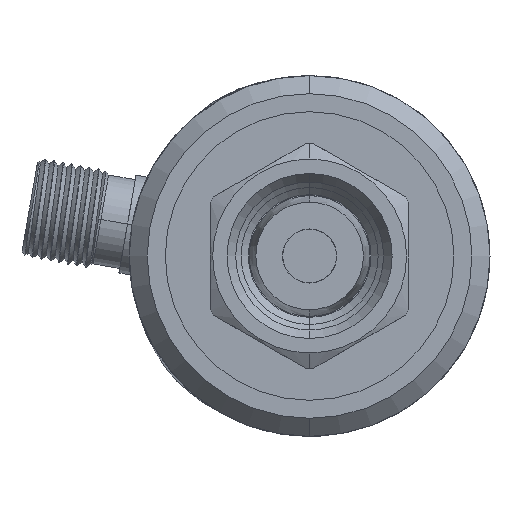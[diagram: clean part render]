
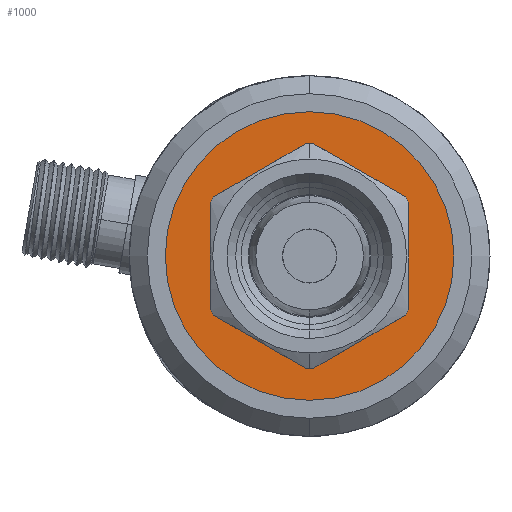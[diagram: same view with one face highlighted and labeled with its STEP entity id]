
A CAD part, front view. The second image highlights one B-rep face of the part: STEP entity #1000.
In plain terms, the highlighted planar face has unit normal (0, -1, 0).
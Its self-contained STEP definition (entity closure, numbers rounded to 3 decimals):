
#75 = AXIS2_PLACEMENT_3D ( 'NONE', #12470, #14091, #4937 ) ;
#190 = CARTESIAN_POINT ( 'NONE',  ( 0., 32., 0. ) ) ;
#465 = VERTEX_POINT ( 'NONE', #7825 ) ;
#937 = AXIS2_PLACEMENT_3D ( 'NONE', #190, #3943, #14285 ) ;
#1000 = ADVANCED_FACE ( 'NONE', ( #5178, #2527 ), #12712, .T. ) ;
#1308 = VERTEX_POINT ( 'NONE', #2076 ) ;
#1553 = ORIENTED_EDGE ( 'NONE', *, *, #5103, .F. ) ;
#1755 = CARTESIAN_POINT ( 'NONE',  ( 0., 32., 0. ) ) ;
#1884 = ORIENTED_EDGE ( 'NONE', *, *, #10165, .T. ) ;
#1983 = EDGE_CURVE ( 'NONE', #12108, #10288, #7428, .T. ) ;
#2063 = AXIS2_PLACEMENT_3D ( 'NONE', #1755, #8249, #6725 ) ;
#2076 = CARTESIAN_POINT ( 'NONE',  ( 0., 32., -2. ) ) ;
#2527 = FACE_BOUND ( 'NONE', #16531, .T. ) ;
#3943 = DIRECTION ( 'NONE',  ( 0., 1., 0. ) ) ;
#4061 = CARTESIAN_POINT ( 'NONE',  ( 0., 32., 0. ) ) ;
#4937 = DIRECTION ( 'NONE',  ( 0., 0., 1. ) ) ;
#5013 = CIRCLE ( 'NONE', #937, 16. ) ;
#5103 = EDGE_CURVE ( 'NONE', #10288, #12108, #5013, .T. ) ;
#5178 = FACE_OUTER_BOUND ( 'NONE', #7465, .T. ) ;
#6385 = CARTESIAN_POINT ( 'NONE',  ( -11.5, 32., 0. ) ) ;
#6544 = DIRECTION ( 'NONE',  ( 0., 1., 0. ) ) ;
#6725 = DIRECTION ( 'NONE',  ( 0., 0., -1. ) ) ;
#7120 = ORIENTED_EDGE ( 'NONE', *, *, #1983, .F. ) ;
#7428 = CIRCLE ( 'NONE', #75, 16. ) ;
#7465 = EDGE_LOOP ( 'NONE', ( #1553, #7120 ) ) ;
#7492 = DIRECTION ( 'NONE',  ( 0., 0., -1. ) ) ;
#7635 = ORIENTED_EDGE ( 'NONE', *, *, #12577, .T. ) ;
#7825 = CARTESIAN_POINT ( 'NONE',  ( 0., 32., 2. ) ) ;
#8249 = DIRECTION ( 'NONE',  ( 0., 1., 0. ) ) ;
#8269 = CARTESIAN_POINT ( 'NONE',  ( 0., 32., -16. ) ) ;
#9352 = DIRECTION ( 'NONE',  ( 0., 0., -1. ) ) ;
#9985 = AXIS2_PLACEMENT_3D ( 'NONE', #4061, #6544, #9352 ) ;
#10056 = DIRECTION ( 'NONE',  ( 0., -1., 0. ) ) ;
#10165 = EDGE_CURVE ( 'NONE', #465, #1308, #13797, .T. ) ;
#10288 = VERTEX_POINT ( 'NONE', #15691 ) ;
#12108 = VERTEX_POINT ( 'NONE', #8269 ) ;
#12470 = CARTESIAN_POINT ( 'NONE',  ( 0., 32., 0. ) ) ;
#12577 = EDGE_CURVE ( 'NONE', #1308, #465, #16831, .T. ) ;
#12712 = PLANE ( 'NONE',  #16167 ) ;
#13797 = CIRCLE ( 'NONE', #9985, 2. ) ;
#14091 = DIRECTION ( 'NONE',  ( 0., 1., 0. ) ) ;
#14285 = DIRECTION ( 'NONE',  ( 0., 0., 1. ) ) ;
#15691 = CARTESIAN_POINT ( 'NONE',  ( 0., 32., 16. ) ) ;
#16167 = AXIS2_PLACEMENT_3D ( 'NONE', #6385, #10056, #7492 ) ;
#16531 = EDGE_LOOP ( 'NONE', ( #1884, #7635 ) ) ;
#16831 = CIRCLE ( 'NONE', #2063, 2. ) ;
